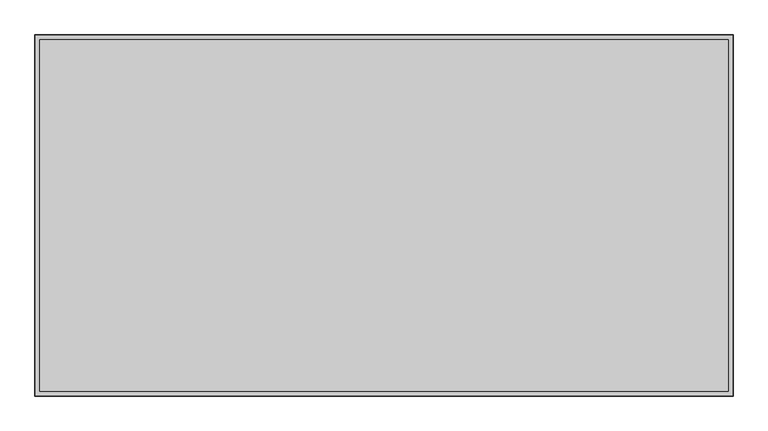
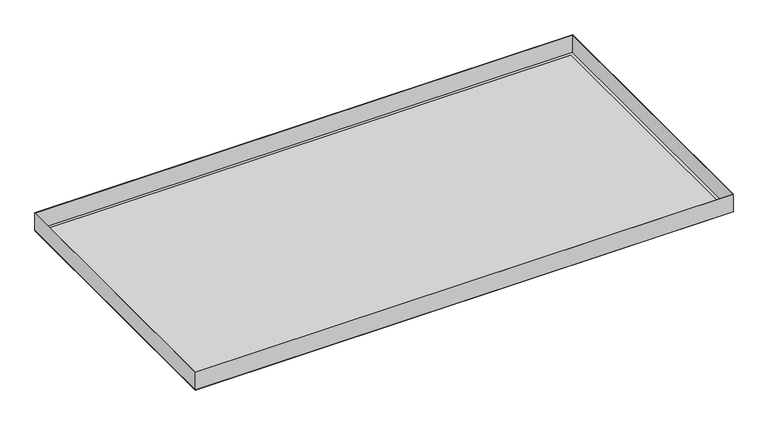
"""IFC4 building model written with IfcOpenShell, lengths in millimetres: proxy geometry, durlum_S-OM-40 : durlum_S-OM-40_panel."""

from ifc_helpers import new_model, si_unit, frame, origin, origin_with_axes, place, context, project, spatial, polyline, outline, extrude, source, transform, mapped, element, save


def generic_models_87aa2ed6(model_context):
    return source(origin(), model_context, "Body", "SweptSolid", [
        extrude(outline(polyline([(579.0, 299.5), (579.0, -299.5), (-579.0, -299.5), (-579.0, 299.5), (579.0, 299.5)]), holes=[polyline([(578.4, 298.9), (-578.4, 298.9), (-578.4, -298.9), (578.4, -298.9), (578.4, 298.9)])]), frame((0.0, 0.0, 0.6), z_axis=(0.0, 0.0, 1.0), x_axis=(1.0, 0.0, 0.0)), (0.0, 0.0, 1.0), 39.4),
        extrude(outline(polyline([(571.0, 291.5), (571.0, -291.5), (-571.0, -291.5), (-571.0, 291.5), (571.0, 291.5)])), frame((0.0, 0.0, 0.6), z_axis=(0.0, 0.0, 1.0), x_axis=(1.0, 0.0, 0.0)), (0.0, 0.0, 1.0), 0.6),
        extrude(outline(polyline([(579.0, 299.5), (579.0, -299.5), (-579.0, -299.5), (-579.0, 299.5), (579.0, 299.5)]), holes=[polyline([(571.0, 291.5), (-571.0, 291.5), (-571.0, -291.5), (571.0, -291.5), (571.0, 291.5)])]), origin_with_axes(), (0.0, 0.0, 1.0), 0.6),
        extrude(outline(polyline([(571.0, 291.5), (571.0, -291.5), (-571.0, -291.5), (-571.0, 291.5), (571.0, 291.5)])), origin_with_axes(), (0.0, 0.0, 1.0), 0.6),
    ])


if __name__ == "__main__":
    model = new_model("IFC4")
    model_context = context("Model", 3, world=origin())
    ifc_project = project(units=[si_unit("LENGTHUNIT", "METRE", prefix="MILLI")], contexts=[model_context])
    site = spatial("IfcSite", under=ifc_project)
    building = spatial("IfcBuilding", under=site)
    placement = place(None, origin())
    generic_models_shape = generic_models_87aa2ed6(model_context)
    element("IfcBuildingElementProxy", 1, Name="durlum_S-OM-40 : durlum_S-OM-40_panel", ObjectType="durlum_S-OM-40 : durlum_S-OM-40_panel", at=placement, inside=building, context=model_context, shape_type="MappedRepresentation", body=[
        mapped(generic_models_shape, transform((0.0, 0.0, 0.0), x_axis=(1.0, 0.0, 0.0), y_axis=(0.0, 1.0, 0.0), z_axis=(0.0, 0.0, 1.0))),
    ])
    save(model, "model.ifc")
